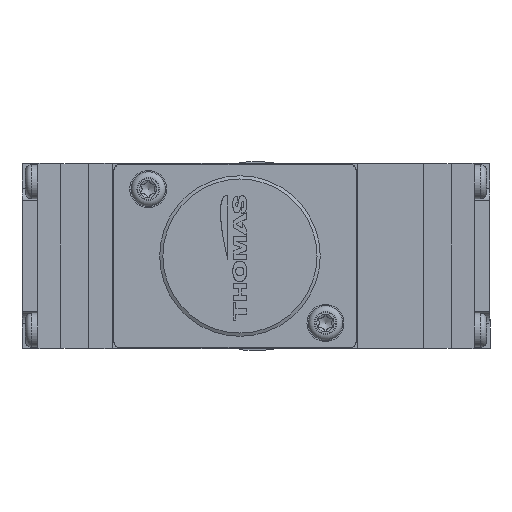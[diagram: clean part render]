
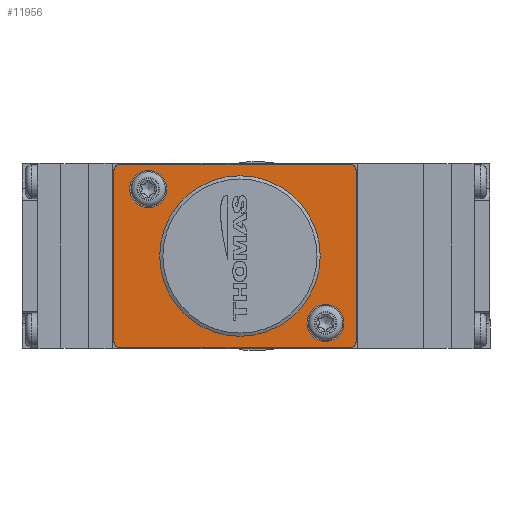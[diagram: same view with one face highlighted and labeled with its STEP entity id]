
A CAD part, left-side view. The second image highlights one B-rep face of the part: STEP entity #11956.
In plain terms, the highlighted planar face has unit normal (-1, 0, 0).
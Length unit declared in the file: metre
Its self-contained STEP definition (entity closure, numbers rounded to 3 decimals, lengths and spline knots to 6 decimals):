
#408 = DIRECTION ( 'NONE',  ( 0., 0., -1. ) ) ;
#573 = EDGE_CURVE ( 'NONE', #18938, #21345, #31004, .T. ) ;
#718 = EDGE_LOOP ( 'NONE', ( #27379 ) ) ;
#1123 = CARTESIAN_POINT ( 'NONE',  ( -0.0301, -0.01525, 0.014803 ) ) ;
#1274 = DIRECTION ( 'NONE',  ( -1., 0., 0. ) ) ;
#1316 = DIRECTION ( 'NONE',  ( -1., 0., 0. ) ) ;
#1701 = CARTESIAN_POINT ( 'NONE',  ( -0.0301, 0.02205, 0.014803 ) ) ;
#1975 = VECTOR ( 'NONE', #2942, 1. ) ;
#2050 = VERTEX_POINT ( 'NONE', #6865 ) ;
#2252 = FACE_BOUND ( 'NONE', #32783, .T. ) ;
#2923 = CARTESIAN_POINT ( 'NONE',  ( -0.0301, 0.01745, 0.01085 ) ) ;
#2942 = DIRECTION ( 'NONE',  ( 0., 0., -1. ) ) ;
#3644 = AXIS2_PLACEMENT_3D ( 'NONE', #24825, #7983, #27656 ) ;
#3753 = CARTESIAN_POINT ( 'NONE',  ( -0.0301, -0.01525, -0.014803 ) ) ;
#3973 = PLANE ( 'NONE',  #31709 ) ;
#4199 = VERTEX_POINT ( 'NONE', #35700 ) ;
#4735 = CARTESIAN_POINT ( 'NONE',  ( -0.0301, 0.01745, 0.00785 ) ) ;
#4824 = AXIS2_PLACEMENT_3D ( 'NONE', #12179, #31835, #15022 ) ;
#5156 = ORIENTED_EDGE ( 'NONE', *, *, #573, .T. ) ;
#5739 = DIRECTION ( 'NONE',  ( 0., 0., -1. ) ) ;
#6091 = EDGE_CURVE ( 'NONE', #22140, #21633, #18224, .T. ) ;
#6202 = EDGE_CURVE ( 'NONE', #26757, #18938, #14727, .T. ) ;
#6339 = LINE ( 'NONE', #20018, #26954 ) ;
#6710 = EDGE_CURVE ( 'NONE', #4199, #11881, #6339, .T. ) ;
#6865 = CARTESIAN_POINT ( 'NONE',  ( -0.0301, -0.016203, -0.01385 ) ) ;
#7485 = EDGE_CURVE ( 'NONE', #21633, #26757, #23838, .T. ) ;
#7598 = CARTESIAN_POINT ( 'NONE',  ( -0.0301, 0.023003, 0.01385 ) ) ;
#7693 = CARTESIAN_POINT ( 'NONE',  ( -0.0301, 0.0026, 0. ) ) ;
#7734 = ORIENTED_EDGE ( 'NONE', *, *, #34335, .T. ) ;
#7983 = DIRECTION ( 'NONE',  ( -1., 0., 0. ) ) ;
#10513 = DIRECTION ( 'NONE',  ( 0., 0., -1. ) ) ;
#10627 = VECTOR ( 'NONE', #10813, 1. ) ;
#10712 = ORIENTED_EDGE ( 'NONE', *, *, #31478, .T. ) ;
#10813 = DIRECTION ( 'NONE',  ( 0., 1., 0. ) ) ;
#10927 = VECTOR ( 'NONE', #14545, 1. ) ;
#10994 = CARTESIAN_POINT ( 'NONE',  ( -0.0301, 0.02205, -0.01385 ) ) ;
#11682 = CARTESIAN_POINT ( 'NONE',  ( -0.0301, -0.016203, 0.01485 ) ) ;
#11881 = VERTEX_POINT ( 'NONE', #3753 ) ;
#11956 = ADVANCED_FACE ( 'NONE', ( #31280, #2252, #17221, #23792 ), #3973, .T. ) ;
#12179 = CARTESIAN_POINT ( 'NONE',  ( -0.0301, 0.02205, 0.01385 ) ) ;
#13502 = CIRCLE ( 'NONE', #36227, 0.013 ) ;
#13854 = DIRECTION ( 'NONE',  ( 0., 0., -1. ) ) ;
#14284 = EDGE_CURVE ( 'NONE', #2050, #22140, #25899, .T. ) ;
#14545 = DIRECTION ( 'NONE',  ( 0., 0., 1. ) ) ;
#14727 = CIRCLE ( 'NONE', #4824, 0.000953 ) ;
#14863 = ORIENTED_EDGE ( 'NONE', *, *, #18162, .F. ) ;
#15022 = DIRECTION ( 'NONE',  ( 0., 0., -1. ) ) ;
#16680 = ORIENTED_EDGE ( 'NONE', *, *, #7485, .T. ) ;
#16687 = AXIS2_PLACEMENT_3D ( 'NONE', #18156, #1316, #20966 ) ;
#16777 = CIRCLE ( 'NONE', #3644, 0.003 ) ;
#17221 = FACE_BOUND ( 'NONE', #17371, .T. ) ;
#17243 = DIRECTION ( 'NONE',  ( -1., 0., 0. ) ) ;
#17371 = EDGE_LOOP ( 'NONE', ( #14863 ) ) ;
#17987 = EDGE_CURVE ( 'NONE', #34780, #34780, #13502, .T. ) ;
#18156 = CARTESIAN_POINT ( 'NONE',  ( -0.0301, -0.01525, -0.01385 ) ) ;
#18162 = EDGE_CURVE ( 'NONE', #27275, #27275, #36324, .T. ) ;
#18224 = CIRCLE ( 'NONE', #20613, 0.000953 ) ;
#18565 = AXIS2_PLACEMENT_3D ( 'NONE', #2923, #22568, #5739 ) ;
#18749 = CARTESIAN_POINT ( 'NONE',  ( -0.0301, -0.016203, 0.01385 ) ) ;
#18938 = VERTEX_POINT ( 'NONE', #7598 ) ;
#20018 = CARTESIAN_POINT ( 'NONE',  ( -0.0301, 0.02305, -0.014803 ) ) ;
#20613 = AXIS2_PLACEMENT_3D ( 'NONE', #34065, #17243, #408 ) ;
#20914 = DIRECTION ( 'NONE',  ( 0., 0., -1. ) ) ;
#20966 = DIRECTION ( 'NONE',  ( 0., 0., -1. ) ) ;
#21345 = VERTEX_POINT ( 'NONE', #33585 ) ;
#21432 = ORIENTED_EDGE ( 'NONE', *, *, #6202, .T. ) ;
#21555 = CARTESIAN_POINT ( 'NONE',  ( -0.0301, 0.0026, -0.013 ) ) ;
#21633 = VERTEX_POINT ( 'NONE', #1123 ) ;
#21867 = EDGE_CURVE ( 'NONE', #32118, #32118, #16777, .T. ) ;
#22140 = VERTEX_POINT ( 'NONE', #18749 ) ;
#22501 = CIRCLE ( 'NONE', #16687, 0.000953 ) ;
#22568 = DIRECTION ( 'NONE',  ( -1., 0., 0. ) ) ;
#23792 = FACE_BOUND ( 'NONE', #718, .T. ) ;
#23838 = LINE ( 'NONE', #30480, #10627 ) ;
#24537 = CARTESIAN_POINT ( 'NONE',  ( -0.0301, -0.01125, -0.01385 ) ) ;
#24825 = CARTESIAN_POINT ( 'NONE',  ( -0.0301, -0.01125, -0.01085 ) ) ;
#25418 = CARTESIAN_POINT ( 'NONE',  ( -0.0301, 0.023003, 0.01485 ) ) ;
#25899 = LINE ( 'NONE', #11682, #10927 ) ;
#26757 = VERTEX_POINT ( 'NONE', #1701 ) ;
#26954 = VECTOR ( 'NONE', #31200, 1. ) ;
#27275 = VERTEX_POINT ( 'NONE', #4735 ) ;
#27348 = DIRECTION ( 'NONE',  ( -1., 0., 0. ) ) ;
#27379 = ORIENTED_EDGE ( 'NONE', *, *, #17987, .F. ) ;
#27656 = DIRECTION ( 'NONE',  ( 0., 0., -1. ) ) ;
#28249 = EDGE_LOOP ( 'NONE', ( #34116, #7734, #34008, #32722, #16680, #21432, #5156, #10712 ) ) ;
#28854 = AXIS2_PLACEMENT_3D ( 'NONE', #10994, #30668, #13854 ) ;
#29755 = ORIENTED_EDGE ( 'NONE', *, *, #21867, .F. ) ;
#30480 = CARTESIAN_POINT ( 'NONE',  ( -0.0301, 0.02305, 0.014803 ) ) ;
#30668 = DIRECTION ( 'NONE',  ( -1., 0., 0. ) ) ;
#31004 = LINE ( 'NONE', #25418, #1975 ) ;
#31200 = DIRECTION ( 'NONE',  ( 0., -1., 0. ) ) ;
#31280 = FACE_OUTER_BOUND ( 'NONE', #28249, .T. ) ;
#31478 = EDGE_CURVE ( 'NONE', #21345, #4199, #34595, .T. ) ;
#31709 = AXIS2_PLACEMENT_3D ( 'NONE', #34954, #1274, #20914 ) ;
#31835 = DIRECTION ( 'NONE',  ( -1., 0., 0. ) ) ;
#32118 = VERTEX_POINT ( 'NONE', #24537 ) ;
#32722 = ORIENTED_EDGE ( 'NONE', *, *, #6091, .T. ) ;
#32783 = EDGE_LOOP ( 'NONE', ( #29755 ) ) ;
#33585 = CARTESIAN_POINT ( 'NONE',  ( -0.0301, 0.023003, -0.01385 ) ) ;
#34008 = ORIENTED_EDGE ( 'NONE', *, *, #14284, .T. ) ;
#34065 = CARTESIAN_POINT ( 'NONE',  ( -0.0301, -0.01525, 0.01385 ) ) ;
#34116 = ORIENTED_EDGE ( 'NONE', *, *, #6710, .T. ) ;
#34335 = EDGE_CURVE ( 'NONE', #11881, #2050, #22501, .T. ) ;
#34595 = CIRCLE ( 'NONE', #28854, 0.000953 ) ;
#34780 = VERTEX_POINT ( 'NONE', #21555 ) ;
#34954 = CARTESIAN_POINT ( 'NONE',  ( -0.0301, 0.02305, 0.01485 ) ) ;
#35700 = CARTESIAN_POINT ( 'NONE',  ( -0.0301, 0.02205, -0.014803 ) ) ;
#36227 = AXIS2_PLACEMENT_3D ( 'NONE', #7693, #27348, #10513 ) ;
#36324 = CIRCLE ( 'NONE', #18565, 0.003 ) ;
